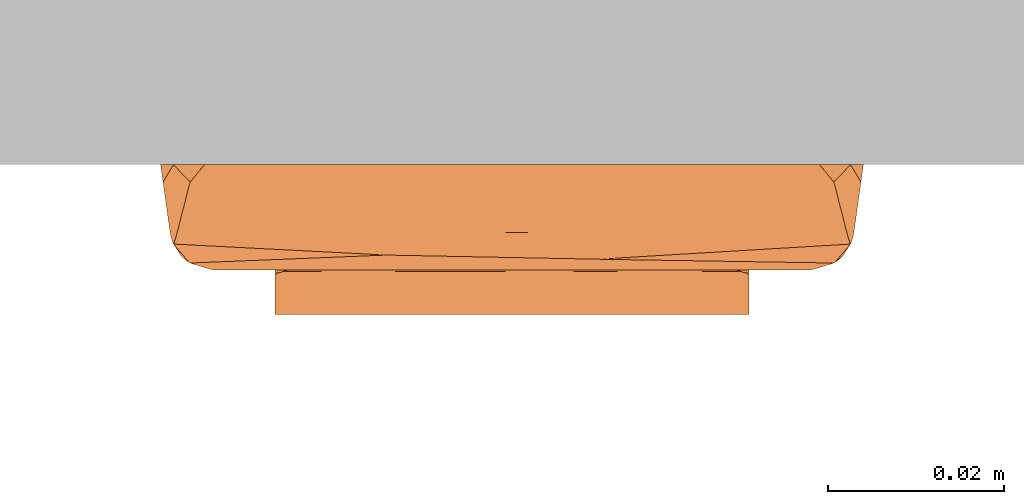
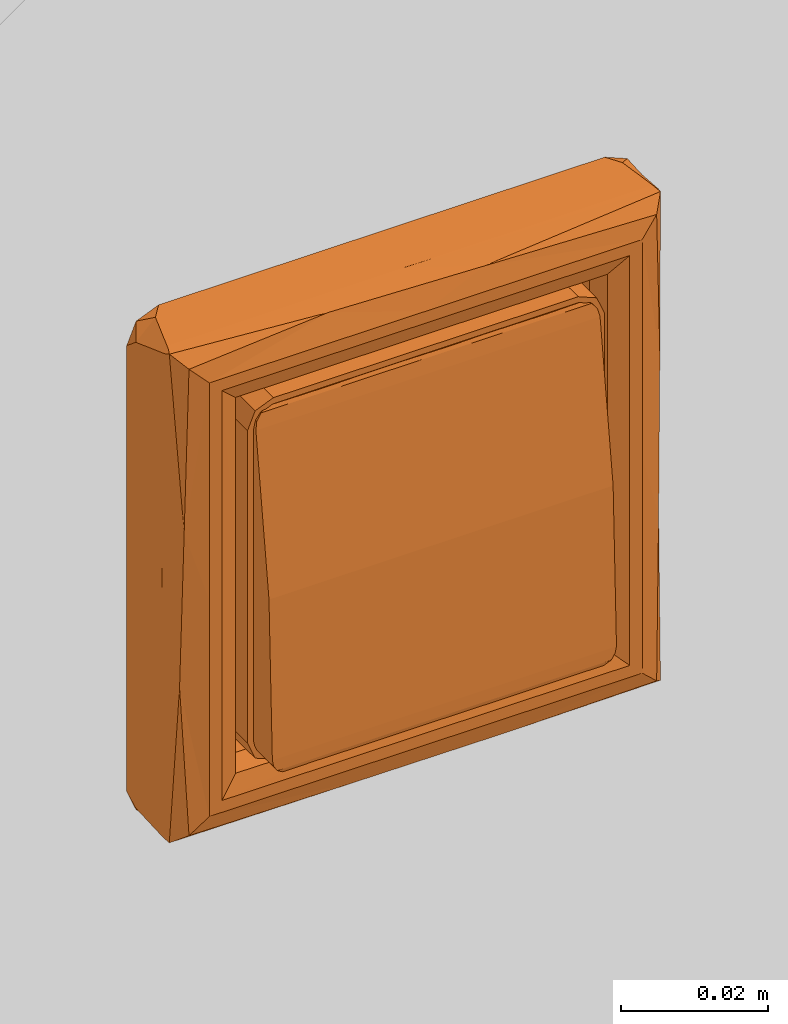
# One storey, part 122 of 197: 1 proxy.
"""IFC2X3 building model written with IfcOpenShell, lengths in metres."""

import ifcopenshell
import ifcopenshell.guid

model = None  # the IFC model being written
_history = None  # IfcOwnerHistory: only IFC2X3 demands one
_inside = {}  # id of a spatial element -> (the spatial element, [elements in it])
_under = {}  # id of a project, library or spatial element -> (it, [spatial elements below it])
_declared = {}  # id of a project -> (the project, [libraries it declares])
_typed = {}  # id of a type object -> (the type object, [elements of that type])
_made_of = {}  # id of a material, layer set ... -> (it, [elements and type objects made of it])


def new_model(schema):
    """Start an empty IFC model of exactly this schema.

    Asked for "IFC4X3", IfcOpenShell would pick the latest addendum, in which some entities
    have other attributes; the version numbers below select the first issue.
    IFC2X3 requires an IfcOwnerHistory on every rooted entity: one is made here for all.
    """
    global model, _history
    if schema == "IFC4X3":
        model = ifcopenshell.file(schema_version=(4, 3, 0, 0))
    else:
        model = ifcopenshell.file(schema=schema)
    _inside.clear()
    _under.clear()
    _declared.clear()
    _typed.clear()
    _made_of.clear()
    _history = None
    if model.schema == "IFC2X3":
        org = make("IfcOrganization", Name="unknown")
        user = make(
            "IfcPersonAndOrganization",
            ThePerson=make("IfcPerson", FamilyName="unknown"),
            TheOrganization=org,
        )
        app = make(
            "IfcApplication",
            ApplicationDeveloper=org,
            Version="unknown",
            ApplicationFullName="unknown",
            ApplicationIdentifier="unknown",
        )
        _history = make(
            "IfcOwnerHistory",
            OwningUser=user,
            OwningApplication=app,
            ChangeAction="ADDED",
            CreationDate=0,
        )
    return model


def make(cls, **values):
    """One entity of the class cls with the attributes given. An attribute that is None is left unset."""
    return model.create_entity(
        cls, **{name: value for name, value in values.items() if value is not None}
    )


def entity(cls, *values):
    """Any entity or typed value of the class cls, its attributes in the order of the schema. None: left unset."""
    e = model.create_entity(cls)
    for i, value in enumerate(values):
        if value is not None:
            e[i] = value
    return e


def rooted(cls, **values):
    """An entity with a GlobalId (a new one), such as an element, a storey or a relation."""
    return make(cls, GlobalId=ifcopenshell.guid.new(), OwnerHistory=_history, **values)


def si_unit(unit_type, name, prefix=None):
    """IfcSIUnit, for example si_unit("LENGTHUNIT", "METRE", prefix="MILLI")."""
    return make("IfcSIUnit", UnitType=unit_type, Prefix=prefix, Name=name)


def converted_unit(unit_type, name, factor, base, dimensions=None, offset=None):
    """IfcConversionBasedUnit, such as the inch: factor (a typed value) times the base unit."""
    return make(
        "IfcConversionBasedUnit"
        if offset is None
        else "IfcConversionBasedUnitWithOffset",
        ConversionOffset=offset,
        Dimensions=None
        if dimensions is None
        else entity("IfcDimensionalExponents", *dimensions),
        UnitType=unit_type,
        Name=name,
        ConversionFactor=make(
            "IfcMeasureWithUnit", ValueComponent=factor, UnitComponent=base
        ),
    )


def assignment(units):
    """IfcUnitAssignment: the units of a project."""
    return None if units is None else make("IfcUnitAssignment", Units=units)


def point(xyz):
    """IfcCartesianPoint."""
    return None if xyz is None else make("IfcCartesianPoint", Coordinates=xyz)


def direction(xyz):
    """IfcDirection."""
    return None if xyz is None else make("IfcDirection", DirectionRatios=xyz)


def frame(location, z_axis=None, x_axis=None):
    """IfcAxis2Placement3D, a coordinate frame: its origin and axes. An axis left out is left unset."""
    return make(
        "IfcAxis2Placement3D",
        Location=point(location),
        Axis=direction(z_axis),
        RefDirection=direction(x_axis),
    )


def origin():
    """The frame at (0, 0, 0) with its axes left unset."""
    return frame((0.0, 0.0, 0.0))


def place(relative_to, where):
    """IfcLocalPlacement: puts the frame where relative to a parent placement (None: the world)."""
    return make(
        "IfcLocalPlacement", PlacementRelTo=relative_to, RelativePlacement=where
    )


def context(
    kind, dimensions, precision=None, world=None, true_north=None, identifier=None
):
    """IfcGeometricRepresentationContext, for example the 3D "Model" context."""
    return make(
        "IfcGeometricRepresentationContext",
        ContextIdentifier=identifier,
        ContextType=kind,
        CoordinateSpaceDimension=dimensions,
        Precision=precision,
        WorldCoordinateSystem=world,
        TrueNorth=true_north,
    )


def subcontext(parent, identifier, kind, view, scale=None):
    """IfcGeometricRepresentationSubContext, for example "Body" below "Model"."""
    return make(
        "IfcGeometricRepresentationSubContext",
        ContextIdentifier=identifier,
        ContextType=kind,
        ParentContext=parent,
        TargetScale=scale,
        TargetView=view,
    )


def project(units=None, contexts=None):
    """IfcProject with its units and contexts."""
    return rooted(
        "IfcProject",
        Name="project",
        RepresentationContexts=contexts,
        UnitsInContext=assignment(units),
    )


def spatial(cls, under=None, at=None, **own):
    """A site, building, storey or space (cls), placed at a placement, below another one or the project."""
    s = rooted(cls, ObjectPlacement=at, **own)
    if under is not None:
        _under.setdefault(under.id(), (under, []))[1].append(s)
    return s


def faces_of(points, faces, orient=None, outer=None):
    """IfcFace entities. A face is a list of loops; a loop is a list of indices into points, from 0.

    orient and outer hold one flag for each loop. By default every Orientation is true, the
    first loop of a face is its IfcFaceOuterBound and the others are IfcFaceBound.
    """
    made = []
    for i, loops in enumerate(faces):
        bounds = []
        for j, loop in enumerate(loops):
            is_outer = j == 0 if outer is None else outer[i][j]
            bounds.append(
                make(
                    "IfcFaceOuterBound" if is_outer else "IfcFaceBound",
                    Bound=make("IfcPolyLoop", Polygon=[points[k] for k in loop]),
                    Orientation=True if orient is None else orient[i][j],
                )
            )
        made.append(make("IfcFace", Bounds=bounds))
    return made


def faceted_brep(points, faces, orient=None, outer=None, voids=None):
    """IfcFacetedBrep: a solid bounded by flat faces; with voids (closed shells), ...WithVoids."""
    shared = [point(p) for p in points]
    hull = make("IfcClosedShell", CfsFaces=faces_of(shared, faces, orient, outer))
    if voids is None:
        return make("IfcFacetedBrep", Outer=hull)
    return make(
        "IfcFacetedBrepWithVoids",
        Outer=hull,
        Voids=[
            make(cls, CfsFaces=faces_of(shared, fs, o, b)) for cls, fs, o, b in voids
        ],
    )


def shape(context_of_items, identifier, shape_type, items):
    """IfcShapeRepresentation: the items that make up one representation, for example the "Body"."""
    return make(
        "IfcShapeRepresentation",
        ContextOfItems=context_of_items,
        RepresentationIdentifier=identifier,
        RepresentationType=shape_type,
        Items=items,
    )


def source(mapping_origin, context_of_items, identifier, shape_type, items):
    """IfcRepresentationMap: a shape defined once, which mapped items show again and again."""
    return make(
        "IfcRepresentationMap",
        MappingOrigin=mapping_origin,
        MappedRepresentation=shape(context_of_items, identifier, shape_type, items),
    )


def transform(
    local_origin,
    x_axis=None,
    y_axis=None,
    z_axis=None,
    scale=None,
    scale2=None,
    scale3=None,
    uniform=True,
):
    """IfcCartesianTransformationOperator3D, or its non-uniform kind. x_axis, y_axis, z_axis: its Axis1, 2, 3."""
    if uniform:
        return make(
            "IfcCartesianTransformationOperator3D",
            Axis1=direction(x_axis),
            Axis2=direction(y_axis),
            LocalOrigin=point(local_origin),
            Scale=scale,
            Axis3=direction(z_axis),
        )
    return make(
        "IfcCartesianTransformationOperator3DnonUniform",
        Axis1=direction(x_axis),
        Axis2=direction(y_axis),
        LocalOrigin=point(local_origin),
        Scale=scale,
        Axis3=direction(z_axis),
        Scale2=scale2,
        Scale3=scale3,
    )


def mapped(mapping_source, mapping_target):
    """IfcMappedItem: shows the shape of a source again, moved by a transform."""
    return make(
        "IfcMappedItem", MappingSource=mapping_source, MappingTarget=mapping_target
    )


def material(Name=None, Category=None):
    """IfcMaterial."""
    return make("IfcMaterial", Name=Name, Category=Category)


def material_list(materials):
    """IfcMaterialList."""
    return make("IfcMaterialList", Materials=materials)


def made_of(thing, what):
    """Note that an element or type object is made of a material, layer set ...; save() writes the relation."""
    if what is not None:
        _made_of.setdefault(what.id(), (what, []))[1].append(thing)
    return thing


def type_object(cls, material=None, **own):
    """A type object (cls), such as IfcWallType, which elements share."""
    return made_of(rooted(cls, **own), material)


def type_shapes(of_type, sources):
    """Give a type object the sources (RepresentationMaps) that its elements show as mapped items."""
    of_type.RepresentationMaps = sources


def element(
    cls,
    number,
    at=None,
    inside=None,
    cuts=None,
    type_object=None,
    material=None,
    context=None,
    identifier="Body",
    shape_type=None,
    held_by="IfcProductDefinitionShape",
    body=None,
    shapes=None,
    **own,
):
    """One element of the class cls, such as IfcWall. Its Tag is "e" and its number.

    at: its placement. inside: the storey or other place that contains it. cuts: it is an
    opening in that element (IfcRelVoidsElement). A single representation is given by context,
    identifier, shape_type and body (its items); several are given by shapes. held_by: the class
    of the entity that holds the representations. save() writes the other relations.
    """
    e = rooted(cls, Tag="e%d" % number, ObjectPlacement=at, **own)
    if body is not None:
        shapes = [shape(context, identifier, shape_type, body)]
    if shapes is not None:
        e.Representation = make(held_by, Representations=shapes)
    if inside is not None:
        _inside.setdefault(inside.id(), (inside, []))[1].append(e)
    if cuts is not None:
        rooted(
            "IfcRelVoidsElement", RelatingBuildingElement=cuts, RelatedOpeningElement=e
        )
    if type_object is not None:
        _typed.setdefault(type_object.id(), (type_object, []))[1].append(e)
    return made_of(e, material)


def aggregate(whole, parts):
    """IfcRelAggregates: a whole, such as a stair, and the parts it consists of."""
    return rooted("IfcRelAggregates", RelatingObject=whole, RelatedObjects=parts)


def save(model, path):
    """Write the relations noted so far, then the file.

    IfcRelAggregates (storeys below a building ...), IfcRelContainedInSpatialStructure (elements
    in a storey), IfcRelDefinesByType, IfcRelAssociatesMaterial and IfcRelDeclares: one each for
    every whole, place, type object, material and project.
    """
    for whole, parts in _under.values():
        aggregate(whole, parts)
    for where, things in _inside.values():
        rooted(
            "IfcRelContainedInSpatialStructure",
            RelatedElements=things,
            RelatingStructure=where,
        )
    for kind, things in _typed.values():
        rooted("IfcRelDefinesByType", RelatedObjects=things, RelatingType=kind)
    for what, things in _made_of.values():
        rooted("IfcRelAssociatesMaterial", RelatedObjects=things, RelatingMaterial=what)
    for by, libraries in _declared.values():
        rooted("IfcRelDeclares", RelatingContext=by, RelatedDefinitions=libraries)
    model.write(path)


model = new_model("IFC2X3")

# Units and contexts
model_context = context("Model", 3, precision=1e-05, world=origin(), true_north=direction((6.123031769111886e-17, 1.0)))
body_context = subcontext(model_context, "Body", "Model", "MODEL_VIEW")
ifc_project = project(units=[si_unit("LENGTHUNIT", "METRE"), converted_unit("PLANEANGLEUNIT", "DEGREE", entity("IfcPlaneAngleMeasure", 0.017453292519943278), si_unit("PLANEANGLEUNIT", "RADIAN"), dimensions=[0, 0, 0, 0, 0, 0, 0]), si_unit("AREAUNIT", "SQUARE_METRE")], contexts=[model_context])

# Site, building, storey
site_placement = place(None, origin())
site = spatial("IfcSite", under=ifc_project, at=site_placement, Name="Default", CompositionType="ELEMENT")
building_placement = place(site_placement, origin())
building = spatial("IfcBuilding", under=site, at=building_placement, CompositionType="ELEMENT")
storey_placement = place(building_placement, origin())
storey = spatial("IfcBuildingStorey", under=building, at=storey_placement, Name="Niveau 0", CompositionType="ELEMENT", Elevation=0.0)

# Proxy
ifc_material_1 = material(Name="A-PVC GRIS 85-85-85")
ifc_material_2 = material(Name="A PVC GRIS 177-177-177")
ifc_material_list = material_list([ifc_material_1, ifc_material_2])
building_element_proxy_type = type_object("IfcBuildingElementProxyType", Name="Interrupteur simple encastré étanche:Simple allumage", PredefinedType="NOTDEFINED", material=ifc_material_list)
shared_shape = source(origin(), body_context, "Body", "Brep", [
    faceted_brep([(-0.024000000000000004, -0.011262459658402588, 0.028999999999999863), (-0.02400000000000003, 0.0, 0.028999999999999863), (-0.02500867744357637, -0.011795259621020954, 0.028825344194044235), (-0.026121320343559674, 0.0, 0.028121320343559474), (-0.025954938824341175, -0.012145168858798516, 0.02827556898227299), (-0.027, 0.0, 0.025999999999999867), (-0.026727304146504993, -0.012347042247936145, 0.027249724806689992), (-0.027, -0.012587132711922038, 0.025999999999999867), (0.027, 0.0, 0.02599999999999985), (0.026121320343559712, 0.0, 0.028121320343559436), (0.026727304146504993, -0.012347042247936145, 0.027249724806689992), (0.027, -0.012587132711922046, 0.025999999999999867), (0.025954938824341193, -0.012145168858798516, 0.028275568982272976), (0.024000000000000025, 0.0, 0.028999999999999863), (0.02400000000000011, -0.011262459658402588, 0.028999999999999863), (0.025008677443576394, -0.011795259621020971, 0.028825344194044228), (-0.02679739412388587, -0.017039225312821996, -0.02708378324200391), (-0.026121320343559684, 0.0, -0.02812132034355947), (-0.026217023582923, -0.017018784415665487, -0.028021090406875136), (-0.027, 0.0, -0.02599999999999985), (-0.027, -0.01705860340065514, -0.025999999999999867), (-0.024000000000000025, 0.0, -0.028999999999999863), (-0.02516466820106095, -0.016729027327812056, -0.028764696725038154), (-0.02400000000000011, -0.016122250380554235, -0.028999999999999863), (0.02400000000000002, 0.0, -0.028999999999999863), (0.026121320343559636, 0.0, -0.028121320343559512), (0.02516466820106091, -0.016729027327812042, -0.02876469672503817), (0.024000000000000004, -0.016122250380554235, -0.028999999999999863), (0.026217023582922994, -0.017018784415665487, -0.02802109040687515), (0.026797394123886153, -0.017039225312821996, -0.02708378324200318), (0.027, 0.0, -0.025999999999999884), (0.027, -0.01705860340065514, -0.025999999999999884), (0.027000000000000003, -0.016143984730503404, 0.00011580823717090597), (-0.026999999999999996, -0.016144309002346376, 0.00011203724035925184), (-0.012000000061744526, -0.016122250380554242, -0.02899999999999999), (-0.014999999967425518, -0.016784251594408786, -0.028709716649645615), (-0.01800000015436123, -0.016122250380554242, -0.028999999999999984), (-0.020132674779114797, -0.01684222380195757, -0.028640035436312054), (-0.009099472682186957, -0.016769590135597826, -0.028725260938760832), (-0.012421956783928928, -0.017018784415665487, -0.02802109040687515), (0.0013731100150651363, -0.017018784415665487, -0.02802109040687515), (-0.006908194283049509, -0.017018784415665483, -0.02802109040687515), (-0.0027675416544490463, -0.016829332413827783, -0.028656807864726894), (0.014999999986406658, -0.016784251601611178, -0.028709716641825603), (0.020132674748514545, -0.01684222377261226, -0.028640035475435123), (0.01793571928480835, -0.017018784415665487, -0.028021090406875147), (0.00965441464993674, -0.017018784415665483, -0.02802109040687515), (0.009368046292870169, -0.016754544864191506, -0.028740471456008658), (0.01200000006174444, -0.016122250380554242, -0.02899999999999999), (0.017999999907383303, -0.016122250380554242, -0.028999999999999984), (-0.01793571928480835, -0.017018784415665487, -0.02802109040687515), (-0.005999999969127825, -0.01612225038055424, -0.028999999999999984), (0.0, -0.016122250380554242, -0.028999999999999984), (0.0035808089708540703, -0.016781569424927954, -0.028712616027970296), (0.0060000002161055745, -0.016122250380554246, -0.028999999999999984), (-0.018000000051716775, -0.011262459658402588, 0.028999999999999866), (-0.01199999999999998, -0.011262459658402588, 0.028999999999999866), (-0.005999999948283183, -0.011262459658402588, 0.028999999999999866), (0.0, -0.011262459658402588, 0.028999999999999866), (0.005999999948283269, -0.011262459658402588, 0.02899999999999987), (0.012000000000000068, -0.011262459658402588, 0.028999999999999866), (0.01800000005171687, -0.011262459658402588, 0.028999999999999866), (-0.01974396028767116, -0.011841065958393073, 0.028789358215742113), (-0.01449428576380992, -0.011857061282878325, 0.028775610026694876), (-0.02181428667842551, -0.012145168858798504, 0.028275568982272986), (0.021814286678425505, -0.012145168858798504, 0.028275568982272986), (0.01918844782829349, -0.011866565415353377, 0.028767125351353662), (0.01656260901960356, -0.012145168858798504, 0.028275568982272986), (-0.0031813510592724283, -0.011810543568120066, 0.0288138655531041), (0.004169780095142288, -0.01186757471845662, 0.02876620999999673), (0.00920641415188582, -0.011810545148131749, 0.028813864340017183), (0.014239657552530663, -0.0118357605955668, 0.02879377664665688), (-0.00984286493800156, -0.011805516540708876, 0.02881769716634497), (-0.013532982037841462, -0.012145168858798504, 0.028275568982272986), (-0.01767363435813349, -0.012145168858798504, 0.028275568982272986), (0.011866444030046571, -0.012145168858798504, 0.028275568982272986), (-0.009392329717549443, -0.012145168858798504, 0.028275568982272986), (-0.005251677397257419, -0.012145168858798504, 0.028275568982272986), (0.007170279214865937, -0.012145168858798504, 0.028275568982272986), (-0.0011110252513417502, -0.012145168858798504, 0.028275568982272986), (0.0030296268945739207, -0.012145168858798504, 0.028275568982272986)], [[[0, 1, 2]], [[3, 4, 2]], [[2, 1, 3]], [[3, 5, 6]], [[7, 6, 5]], [[3, 6, 4]], [[8, 9, 10]], [[10, 11, 8]], [[9, 12, 10]], [[13, 14, 15]], [[12, 9, 15]], [[15, 9, 13]], [[16, 17, 18]], [[17, 16, 19]], [[16, 20, 19]], [[17, 21, 22]], [[23, 22, 21]], [[17, 22, 18]], [[24, 25, 26]], [[26, 27, 24]], [[25, 28, 26]], [[25, 29, 28]], [[29, 25, 30]], [[31, 29, 30]], [[32, 31, 30, 8, 11]], [[5, 19, 20, 33, 7]], [[34, 35, 36]], [[23, 36, 37]], [[38, 39, 35]], [[40, 41, 42]], [[43, 44, 45]], [[28, 45, 44]], [[46, 47, 43]], [[43, 48, 49]], [[47, 48, 43]], [[49, 44, 43]], [[18, 22, 37]], [[44, 27, 26]], [[35, 37, 36]], [[49, 27, 44]], [[46, 43, 45]], [[35, 34, 38]], [[37, 35, 50]], [[42, 51, 52]], [[53, 52, 54]], [[42, 38, 51]], [[38, 42, 41]], [[40, 42, 53]], [[38, 34, 51]], [[53, 46, 40]], [[47, 46, 53]], [[53, 54, 47]], [[54, 48, 47]], [[52, 53, 42]], [[39, 38, 41]], [[39, 50, 35]], [[28, 44, 26]], [[18, 37, 50]], [[37, 22, 23]], [[24, 27, 49, 48, 54, 52, 51, 34, 36, 23, 21]], [[30, 25, 24, 21, 17, 19, 5, 3, 1, 13, 9, 8]], [[14, 13, 1, 0, 55, 56, 57, 58, 59, 60, 61]], [[55, 62, 63]], [[2, 64, 62]], [[65, 66, 67]], [[58, 68, 69]], [[15, 14, 66]], [[15, 66, 65]], [[70, 71, 60]], [[71, 67, 66]], [[72, 63, 73]], [[55, 63, 56]], [[14, 61, 66]], [[74, 62, 64]], [[61, 71, 66]], [[2, 62, 0]], [[65, 12, 15]], [[2, 4, 64]], [[71, 61, 60]], [[70, 75, 71]], [[60, 59, 70]], [[72, 73, 76, 77]], [[70, 69, 78]], [[69, 70, 59]], [[58, 69, 59]], [[69, 79, 80, 78]], [[75, 70, 78]], [[75, 67, 71]], [[62, 74, 63]], [[62, 55, 0]], [[68, 77, 79]], [[69, 68, 79]], [[56, 63, 72]], [[57, 56, 72]], [[68, 57, 72]], [[77, 68, 72]], [[58, 57, 68]], [[63, 74, 73]], [[4, 6, 7]], [[4, 7, 11, 12, 65, 67, 75, 78, 80, 79, 77, 76, 73, 74, 64]], [[10, 12, 11]], [[7, 32, 11]], [[7, 33, 32]], [[31, 33, 20]], [[18, 20, 16]], [[29, 31, 28]], [[31, 20, 18, 50, 39, 41, 40, 46, 45, 28]], [[33, 31, 32]]]),
    faceted_brep([(-0.0278595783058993, -0.00041725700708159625, -0.028736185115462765), (-0.0274142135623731, -5.663184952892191e-05, -0.029414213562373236), (-0.027847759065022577, 0.0, -0.028765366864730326), (-0.028000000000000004, 0.0, -0.02800000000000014), (-0.028000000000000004, -0.0008999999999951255, -0.02800000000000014), (0.026736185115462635, -0.00041725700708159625, -0.029859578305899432), (0.0274142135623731, -5.663184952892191e-05, -0.029414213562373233), (0.026765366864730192, 0.0, -0.02984775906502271), (0.026000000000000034, 0.0, -0.03000000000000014), (0.02600000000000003, -0.0008999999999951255, -0.03000000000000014), (0.027859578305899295, -0.0004172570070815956, 0.0287361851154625), (0.027999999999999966, -0.0008999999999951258, 0.02799999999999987), (0.027999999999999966, -0.0008999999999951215, 0.02999999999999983), (0.0278595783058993, -0.0004172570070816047, -0.028736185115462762), (0.027999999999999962, -0.0008999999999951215, -0.030000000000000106), (0.028, -0.0008999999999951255, -0.028000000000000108), (0.02783915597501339, -0.00038653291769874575, 0.02983915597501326), (0.0274142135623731, -5.663184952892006e-05, 0.029414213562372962), (-0.02673618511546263, -0.00041725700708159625, 0.02985957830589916), (-0.0274142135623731, -5.663184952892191e-05, 0.029414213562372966), (-0.02676536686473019, 0.0, 0.029847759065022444), (-0.026000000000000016, 0.0, 0.02999999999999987), (-0.026000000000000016, -0.0008999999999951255, 0.02999999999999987), (0.02784775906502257, 0.0, 0.02876536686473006), (0.028000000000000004, 0.0, 0.027999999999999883), (-0.026736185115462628, -0.00041725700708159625, -0.029859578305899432), (-0.027999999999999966, -0.0008999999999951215, -0.0300000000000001), (-0.026000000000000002, -0.0008999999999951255, -0.030000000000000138), (0.02783915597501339, -0.00038653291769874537, -0.02983915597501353), (-0.0278595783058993, -0.00041725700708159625, 0.028736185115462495), (-0.027999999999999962, -0.0008999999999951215, 0.029999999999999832), (-0.028, -0.0008999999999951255, 0.02799999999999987), (-0.027839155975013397, -0.0003865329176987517, -0.02983915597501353), (0.02673618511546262, -0.00041725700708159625, 0.029859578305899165), (0.025999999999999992, -0.0008999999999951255, 0.02999999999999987), (-0.02783915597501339, -0.0003865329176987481, 0.02983915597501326), (-0.03891841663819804, -0.007695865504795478, 0.04010580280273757), (-0.03877066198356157, -0.008387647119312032, 0.04028361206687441), (-0.03828361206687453, -0.008387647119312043, 0.04077066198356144), (-0.038105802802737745, -0.007695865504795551, 0.040918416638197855), (-0.03972186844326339, -0.001979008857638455, 0.03864437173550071), (-0.03853553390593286, 0.0, 0.04053553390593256), (-0.039287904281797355, 0.0, 0.03871915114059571), (-0.04000000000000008, 0.0, 0.03700000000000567), (-0.03664437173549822, -0.0019790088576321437, 0.04172186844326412), (-0.03853553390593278, -0.00903204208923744, 0.04053553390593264), (-0.03500000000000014, 0.0, 0.04199999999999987), (-0.036719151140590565, 0.0, 0.04128790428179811), (0.03810580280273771, -0.007695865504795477, 0.04091841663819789), (0.03828361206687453, -0.008387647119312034, 0.04077066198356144), (0.038918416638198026, -0.00769586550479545, 0.04010580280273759), (0.03664437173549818, -0.0019790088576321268, 0.04172186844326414), (0.03853553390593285, 0.0, 0.04053553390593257), (0.036719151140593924, 0.0, 0.041287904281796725), (0.03500000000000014, 0.0, 0.04199999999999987), (0.039721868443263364, -0.0019790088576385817, 0.038644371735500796), (0.038770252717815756, -0.008389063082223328, 0.04028408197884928), (0.03853553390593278, -0.00903204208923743, 0.04053553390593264), (0.04000000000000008, 0.0, 0.036999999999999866), (0.039287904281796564, 0.0, 0.03871915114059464), (-0.03810580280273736, -0.007695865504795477, -0.04091841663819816), (-0.03828361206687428, -0.008387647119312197, -0.04077066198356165), (-0.03877066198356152, -0.008387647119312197, -0.04028361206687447), (-0.038918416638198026, -0.00769586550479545, -0.04010580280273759), (-0.03664437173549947, -0.0019790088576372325, -0.04172186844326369), (-0.03853553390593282, 0.0, -0.0405355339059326), (-0.03671915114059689, 0.0, -0.041287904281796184), (-0.035000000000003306, 0.0, -0.04199999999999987), (-0.03972186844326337, -0.0019790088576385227, -0.038644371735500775), (-0.03853553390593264, -0.009032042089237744, -0.04053553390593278), (-0.04000000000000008, 0.0, -0.03699999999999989), (-0.03928790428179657, 0.0, -0.03871915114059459), (0.03891841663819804, -0.007695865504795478, -0.04010580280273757), (0.03877066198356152, -0.008387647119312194, -0.04028361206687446), (0.03828361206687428, -0.008387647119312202, -0.04077066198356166), (0.0381058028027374, -0.0076958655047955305, -0.040918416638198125), (0.03972186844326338, -0.0019790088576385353, -0.038644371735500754), (0.03853553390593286, 0.0, -0.04053553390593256), (0.03928790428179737, 0.0, -0.038719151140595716), (0.04000000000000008, 0.0, -0.03700000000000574), (0.036644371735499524, -0.0019790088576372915, -0.041721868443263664), (0.03853553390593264, -0.009032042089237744, -0.04053553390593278), (0.03500000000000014, 0.0, -0.04199999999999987), (0.03671915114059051, 0.0, -0.04128790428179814), (0.03396707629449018, -0.012000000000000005, 0.03596707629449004), (0.031999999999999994, -0.012000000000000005, 0.03399999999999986), (0.031999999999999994, -0.011999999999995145, 0.0009170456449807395), (0.03199999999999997, -0.012000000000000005, -0.03400000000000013), (-0.002917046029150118, -0.011999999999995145, 0.03399999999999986), (-0.03199999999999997, -0.012000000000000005, 0.03399999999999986), (0.0, -0.011999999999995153, 0.03596707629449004), (0.03396707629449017, -0.011999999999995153, 0.0), (-0.03396707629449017, -0.012000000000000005, 0.035967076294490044), (-0.031999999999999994, -0.011999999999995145, -0.0009170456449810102), (-0.031999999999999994, -0.012000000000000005, -0.03400000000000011), (-0.03396707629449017, -0.011999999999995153, 0.0), (-0.03396707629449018, -0.012000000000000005, -0.0359670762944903), (0.0, -0.011999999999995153, -0.03596707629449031), (0.03396707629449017, -0.012000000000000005, -0.035967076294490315), (0.00291704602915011, -0.011999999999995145, -0.03400000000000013), (-0.027847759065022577, 0.0, 0.028765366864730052), (-0.028, 0.0, 0.02799999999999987), (0.026765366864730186, 0.0, 0.029847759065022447), (0.026000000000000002, 0.0, 0.029999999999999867), (-0.026765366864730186, 0.0, -0.02984775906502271), (-0.026000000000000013, 0.0, -0.03000000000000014), (0.02784775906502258, 0.0, -0.028765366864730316), (0.028000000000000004, 0.0, -0.028000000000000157), (0.028, -0.007999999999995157, -0.030000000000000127), (0.027999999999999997, -0.007999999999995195, 0.0), (0.028000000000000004, -0.007999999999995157, 0.029999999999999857), (-0.027999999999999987, -0.007999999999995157, -0.030000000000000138), (-0.006917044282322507, -0.007999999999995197, -0.03000000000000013), (-0.028, -0.007999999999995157, 0.029999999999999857), (-0.027999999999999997, -0.007999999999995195, 0.0), (0.006917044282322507, -0.007999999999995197, 0.02999999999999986), (0.029171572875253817, -0.010828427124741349, 0.03117157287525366), (0.02917157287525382, -0.010828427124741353, -0.031171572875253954), (0.029187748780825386, -0.010844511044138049, -0.007454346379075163), (0.038918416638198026, -0.007695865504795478, -0.0010673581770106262), (-0.005945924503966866, -0.010913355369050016, -0.031259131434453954), (-0.029171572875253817, -0.010828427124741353, -0.03117157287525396), (0.0009326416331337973, -0.007695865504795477, -0.04091841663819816), (-0.02917157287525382, -0.010828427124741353, 0.031171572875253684), (-0.029187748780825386, -0.010844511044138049, 0.007454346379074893), (-0.038918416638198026, -0.007695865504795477, 0.0010673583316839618), (0.005945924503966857, -0.010913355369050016, 0.031259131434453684), (-0.0009326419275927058, -0.007695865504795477, 0.04091841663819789), (0.0376829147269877, -0.010345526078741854, 0.014296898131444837), (0.03722312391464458, -0.01079448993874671, -0.011408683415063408), (0.03669114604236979, -0.011192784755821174, -0.038691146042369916), (0.036691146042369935, -0.011192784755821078, 0.0386911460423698), (0.014284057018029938, -0.010284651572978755, -0.03973683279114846), (-0.009744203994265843, -0.010756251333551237, -0.03926716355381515), (-0.036691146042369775, -0.011192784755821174, -0.03869114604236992), (-0.03768291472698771, -0.010345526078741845, -0.014296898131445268), (-0.03722312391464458, -0.010794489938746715, 0.011408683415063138), (-0.03669114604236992, -0.011192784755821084, 0.0386911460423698), (-0.014284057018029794, -0.010284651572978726, 0.03973683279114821), (0.009744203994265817, -0.010756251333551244, 0.03926716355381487)], [[[0, 1, 2]], [[3, 4, 0]], [[2, 3, 0]], [[5, 6, 7]], [[8, 9, 5]], [[7, 8, 5]], [[10, 11, 12]], [[13, 14, 15]], [[16, 17, 10]], [[12, 16, 10]], [[18, 19, 20]], [[21, 22, 18]], [[20, 21, 18]], [[10, 17, 23]], [[24, 11, 10]], [[23, 24, 10]], [[5, 9, 14]], [[25, 26, 27]], [[28, 6, 5]], [[14, 28, 5]], [[0, 4, 26]], [[29, 30, 31]], [[32, 1, 0]], [[26, 32, 0]], [[18, 22, 30]], [[33, 12, 34]], [[35, 19, 18]], [[30, 35, 18]], [[36, 37, 38, 39]], [[40, 41, 42, 43]], [[39, 44, 40, 36]], [[38, 37, 45]], [[41, 44, 46, 47]], [[41, 40, 44]], [[48, 49, 50]], [[51, 52, 53, 54]], [[50, 55, 51, 48]], [[56, 49, 57]], [[52, 55, 58, 59]], [[52, 51, 55]], [[50, 49, 56]], [[60, 61, 62, 63]], [[64, 65, 66, 67]], [[63, 68, 64, 60]], [[62, 61, 69]], [[65, 68, 70, 71]], [[65, 64, 68]], [[72, 73, 74, 75]], [[76, 77, 78, 79]], [[75, 80, 76, 72]], [[74, 73, 81]], [[77, 80, 82, 83]], [[77, 76, 80]], [[84, 85, 86]], [[84, 86, 87]], [[84, 88, 85]], [[84, 89, 88]], [[89, 84, 90]], [[87, 91, 84]], [[89, 90, 92]], [[92, 93, 89]], [[92, 94, 93]], [[94, 92, 95]], [[94, 95, 96]], [[94, 96, 97]], [[94, 97, 98]], [[98, 87, 99]], [[87, 98, 91]], [[98, 99, 94]], [[46, 43, 42, 41, 47]], [[43, 100, 101, 3, 2, 70]], [[21, 20, 46, 54, 102, 103]], [[70, 67, 66, 65, 71]], [[104, 105, 8, 7, 82, 67]], [[58, 54, 53, 52, 59]], [[24, 23, 58, 79, 106, 107]], [[82, 79, 78, 77, 83]], [[43, 46, 19]], [[19, 100, 43]], [[20, 19, 46]], [[67, 70, 1]], [[2, 1, 70]], [[1, 104, 67]], [[23, 17, 58]], [[102, 54, 17]], [[58, 17, 54]], [[6, 106, 79]], [[6, 82, 7]], [[79, 82, 6]], [[33, 34, 103]], [[102, 17, 33]], [[103, 102, 33]], [[11, 24, 107, 15, 14, 108, 109, 110, 12]], [[13, 15, 107]], [[106, 6, 13]], [[107, 106, 13]], [[9, 8, 105, 27, 26, 111, 112, 108, 14]], [[25, 27, 105]], [[104, 1, 25]], [[105, 104, 25]], [[4, 3, 101, 31, 30, 113, 114, 111, 26]], [[29, 31, 101]], [[100, 19, 29]], [[101, 100, 29]], [[22, 21, 103, 34, 12, 110, 115, 113, 30]], [[116, 86, 85]], [[109, 116, 110]], [[108, 117, 118]], [[109, 118, 116]], [[87, 86, 118]], [[116, 118, 86]], [[108, 118, 109]], [[87, 118, 117]], [[58, 55, 50, 119, 72, 76, 79]], [[117, 99, 87]], [[120, 112, 121]], [[120, 117, 108]], [[108, 112, 120]], [[94, 99, 120]], [[117, 120, 99]], [[112, 111, 121]], [[94, 120, 121]], [[82, 80, 75, 122, 60, 64, 67]], [[121, 93, 94]], [[114, 121, 111]], [[113, 123, 124]], [[114, 124, 121]], [[89, 93, 124]], [[121, 124, 93]], [[113, 124, 114]], [[89, 124, 123]], [[70, 68, 63, 125, 36, 40, 43]], [[123, 88, 89]], [[126, 115, 116]], [[126, 123, 113]], [[113, 115, 126]], [[85, 88, 126]], [[123, 126, 88]], [[115, 110, 116]], [[85, 126, 116]], [[46, 44, 39, 127, 48, 51, 54]], [[6, 28, 13]], [[14, 13, 28]], [[1, 32, 25]], [[26, 25, 32]], [[19, 35, 29]], [[30, 29, 35]], [[17, 16, 33]], [[12, 33, 16]], [[57, 128, 56]], [[129, 128, 91]], [[128, 84, 91]], [[56, 128, 50]], [[73, 72, 119]], [[81, 129, 130]], [[129, 98, 130]], [[131, 128, 57]], [[73, 129, 81]], [[98, 129, 91]], [[128, 131, 84]], [[119, 50, 128]], [[73, 119, 129]], [[128, 129, 119]], [[81, 132, 74]], [[97, 96, 133]], [[132, 98, 97]], [[74, 132, 75]], [[61, 60, 122]], [[133, 132, 97]], [[133, 96, 134]], [[130, 132, 81]], [[133, 69, 61]], [[69, 133, 134]], [[132, 130, 98]], [[122, 75, 132]], [[61, 122, 133]], [[132, 133, 122]], [[69, 135, 62]], [[136, 135, 95]], [[135, 96, 95]], [[62, 135, 63]], [[37, 36, 125]], [[45, 136, 137]], [[136, 92, 137]], [[134, 135, 69]], [[37, 136, 45]], [[92, 136, 95]], [[135, 134, 96]], [[125, 63, 135]], [[37, 125, 136]], [[135, 136, 125]], [[45, 138, 38]], [[90, 84, 139]], [[138, 92, 90]], [[38, 138, 39]], [[49, 48, 127]], [[139, 138, 90]], [[139, 84, 131]], [[137, 138, 45]], [[139, 57, 49]], [[57, 139, 131]], [[138, 137, 92]], [[127, 39, 138]], [[49, 127, 139]], [[138, 139, 127]]]),
    faceted_brep([(-0.023923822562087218, -0.012, 0.029999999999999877), (-0.026789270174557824, -0.012, 0.028813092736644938), (-0.02397617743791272, -0.012, 0.028999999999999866), (0.02392382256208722, -0.012, 0.02999999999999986), (-0.026097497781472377, -0.012, 0.028121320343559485), (-0.026976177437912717, -0.012, 0.025999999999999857), (-0.02797617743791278, -0.012, 0.025947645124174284), (-0.02797617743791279, -0.012, -0.025900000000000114), (-0.026976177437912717, -0.012, -0.025999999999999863), (-0.026775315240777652, -0.012, -0.028799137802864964), (-0.026097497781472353, -0.012, -0.028121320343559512), (-0.02397617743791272, -0.012, -0.028999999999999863), (-0.023876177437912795, -0.012, -0.030000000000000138), (0.024023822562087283, -0.012, -0.029000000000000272), (0.02392382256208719, -0.012, -0.030000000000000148), (0.026822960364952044, -0.012, -0.028799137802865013), (0.026145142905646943, -0.012, -0.028121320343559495), (0.02702382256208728, -0.012, -0.025999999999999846), (0.02802382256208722, -0.012, -0.02590000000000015), (0.02802382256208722, -0.012, 0.025899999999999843), (0.02702382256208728, -0.012, 0.025999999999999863), (0.026822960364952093, -0.012, 0.02879913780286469), (0.024023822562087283, -0.012, 0.028999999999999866), (0.026145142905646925, -0.012, 0.028121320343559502), (-0.02387617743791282, 0.0, -0.030000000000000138), (-0.026775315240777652, 0.0, -0.028799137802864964), (-0.023976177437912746, 0.0, -0.028999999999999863), (0.02402382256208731, 0.0, -0.028999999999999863), (0.02392382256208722, 0.0, -0.030000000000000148), (-0.026097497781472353, 0.0, -0.028121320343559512), (-0.026976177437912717, 0.0, -0.025999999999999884), (-0.02797617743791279, 0.0, -0.02590000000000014), (-0.026976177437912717, 0.0, 0.02599999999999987), (-0.02797617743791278, 0.0, 0.025947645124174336), (-0.026789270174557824, 0.0, 0.028813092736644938), (-0.026097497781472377, 0.0, 0.028121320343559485), (-0.023976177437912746, 0.0, 0.028999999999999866), (-0.023923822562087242, 0.0, 0.029999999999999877), (0.023923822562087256, 0.0, 0.02999999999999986), (0.024023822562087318, 0.0, 0.028999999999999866), (0.026822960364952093, 0.0, 0.02879913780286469), (0.026145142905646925, 0.0, 0.028121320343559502), (0.02702382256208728, 0.0, 0.02599999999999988), (0.02802382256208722, 0.0, 0.025899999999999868), (0.02802382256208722, 0.0, -0.025900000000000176), (0.02702382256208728, 0.0, -0.02599999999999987), (0.026822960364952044, 0.0, -0.028799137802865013), (0.026145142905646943, 0.0, -0.028121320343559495)], [[[0, 1, 2]], [[0, 2, 3]], [[2, 1, 4]], [[1, 5, 4]], [[5, 1, 6]], [[5, 6, 7]], [[8, 5, 7]], [[9, 8, 7]], [[8, 9, 10]], [[9, 11, 10]], [[9, 12, 11]], [[11, 12, 13]], [[14, 13, 12]], [[15, 13, 14]], [[13, 15, 16]], [[15, 17, 16]], [[15, 18, 17]], [[18, 19, 17]], [[17, 19, 20]], [[20, 19, 21]], [[3, 22, 21]], [[21, 22, 23]], [[20, 21, 23]], [[22, 3, 2]], [[24, 25, 26]], [[24, 26, 27]], [[27, 28, 24]], [[26, 25, 29]], [[25, 30, 29]], [[30, 25, 31]], [[30, 31, 32]], [[32, 31, 33]], [[34, 32, 33]], [[32, 34, 35]], [[34, 36, 35]], [[34, 37, 36]], [[36, 37, 38]], [[38, 39, 36]], [[40, 39, 38]], [[39, 40, 41]], [[40, 42, 41]], [[40, 43, 42]], [[43, 44, 42]], [[42, 44, 45]], [[45, 44, 46]], [[28, 27, 46]], [[46, 27, 47]], [[45, 46, 47]], [[7, 6, 33, 31]], [[7, 31, 25, 9]], [[25, 24, 12, 9]], [[14, 12, 24, 28]], [[14, 28, 46, 15]], [[46, 44, 18, 15]], [[19, 18, 44, 43]], [[19, 43, 40, 21]], [[40, 38, 3, 21]], [[0, 3, 38, 37]], [[0, 37, 34, 1]], [[34, 33, 6, 1]], [[5, 8, 30, 32]], [[22, 2, 36, 39]], [[17, 20, 42, 45]], [[11, 13, 27, 26]], [[32, 35, 4, 5]], [[36, 2, 4, 35]], [[39, 41, 23, 22]], [[42, 20, 23, 41]], [[45, 47, 16, 17]], [[27, 13, 16, 47]], [[26, 29, 10, 11]], [[30, 8, 10, 29]]]),
])
type_shapes(building_element_proxy_type, [shared_shape])
proxy_placement = place(storey_placement, frame((-416.74944850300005, 109.31996719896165, 1.1)))
element("IfcBuildingElementProxy", 1, at=proxy_placement, inside=storey, type_object=building_element_proxy_type, material=ifc_material_list, Name="Interrupteur simple encastré étanche:Simple allumage", ObjectType="Interrupteur simple encastré étanche:Simple allumage", context=body_context, shape_type="MappedRepresentation", body=[
    mapped(shared_shape, transform((0.0, 0.0, 0.0), scale=1.0)),
])

save(model, "model.ifc")
